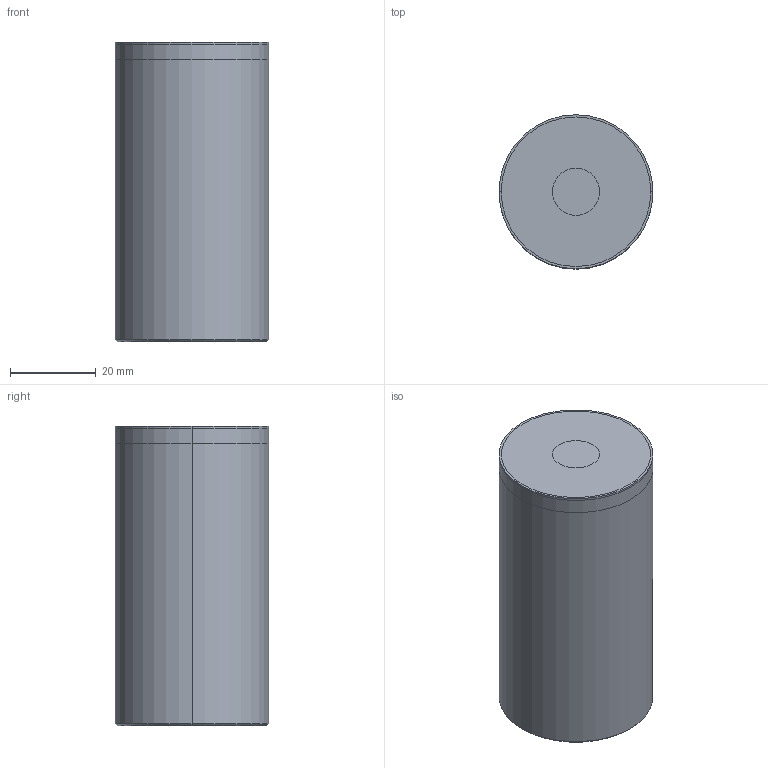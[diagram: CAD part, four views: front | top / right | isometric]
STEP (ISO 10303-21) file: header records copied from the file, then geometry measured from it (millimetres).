
FILE_DESCRIPTION (( 'STEP AP214' ), '1' );
FILE_NAME ('BruyRubio_BRSP_36_X_70.STEP', '2020-01-15T09:35:35', ( '' ), ( '' ), 'SwSTEP 2.0', 'SolidWorks 2017', '' );
FILE_SCHEMA (( 'AUTOMOTIVE_DESIGN' ));
Length unit declared in the file: millimetre
Products named in the file (3): BruyRubio_BRSP_36_X_70; Einbauraum_29eeb7; BRSP 36 X 70_e66db0
Assembly tree (2 placements, depth 2):
  BruyRubio_BRSP_36_X_70
    Einbauraum_29eeb7
    BRSP 36 X 70_e66db0
Bounding box: 36 x 36 x 70.08 mm (x, y, z)
Volume: 66858.9 mm3; surface area: 14847.5 mm2
Topology: 2 solids, 2 shells, 17 faces, 32 edges, 20 vertices
Faces by surface type: cylinder 8, plane 5, cone 4
Entity records: 735 total; most frequent: DIRECTION 96, CARTESIAN_POINT 74, ORIENTED_EDGE 64, AXIS2_PLACEMENT_3D 42, EDGE_CURVE 32, UNCERTAINTY_MEASURE_WITH_UNIT 24, MECHANICAL_DESIGN_GEOMETRIC_PRESENTATION_REPRESENTATION 21, FILL_AREA_STYLE_COLOUR 21
